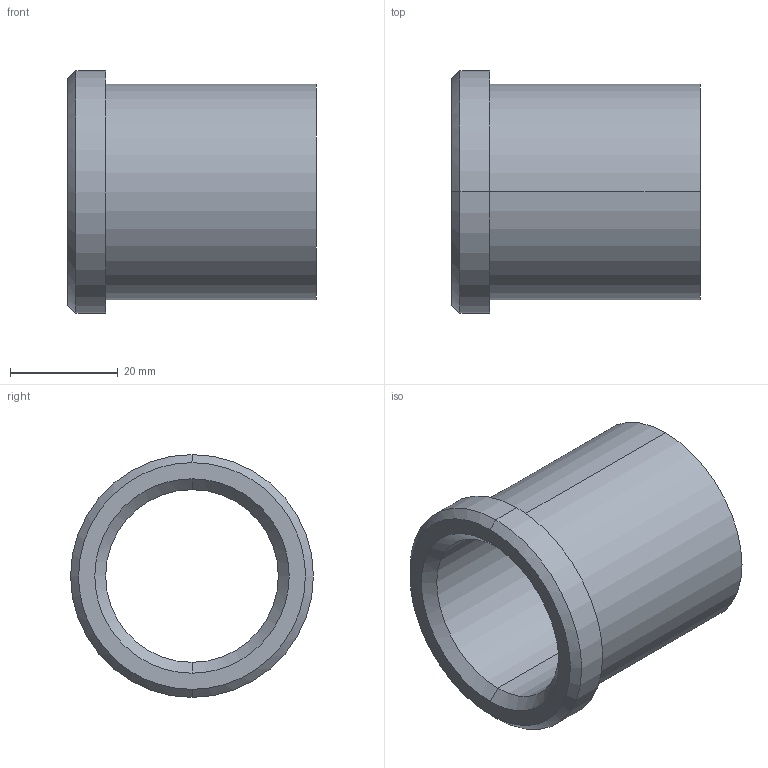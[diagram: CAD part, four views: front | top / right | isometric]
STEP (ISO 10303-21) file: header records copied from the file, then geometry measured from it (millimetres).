
FILE_DESCRIPTION(('CATIA V5 STEP Exchange'),'2;1');
FILE_NAME('C:\Users\Utente\Desktop\IO LAVORO\3D X SITO CF\X SITO\PLASTICA\353\353-32X46.stp','2021-05-12T18:56:56+00:00',('none'),('none'),'CATIA Version 5 Release 20 GA (IN-10)','CATIA V5 STEP AP203','none');
FILE_SCHEMA(('CONFIG_CONTROL_DESIGN'));
Length unit declared in the file: millimetre
Products named in the file (1): 353-32X46
Bounding box: 46 x 45 x 45 mm (x, y, z)
Volume: 22692.8 mm3; surface area: 11763 mm2
Topology: 1 solids, 1 shells, 15 faces, 48 edges, 36 vertices
Faces by surface type: cylinder 6, cone 4, plane 3, torus 2
Entity records: 680 total; most frequent: CARTESIAN_POINT 212, ORIENTED_EDGE 96, DIRECTION 70, EDGE_CURVE 48, AXIS2_PLACEMENT_3D 46, VERTEX_POINT 36, CIRCLE 30, EDGE_LOOP 18
